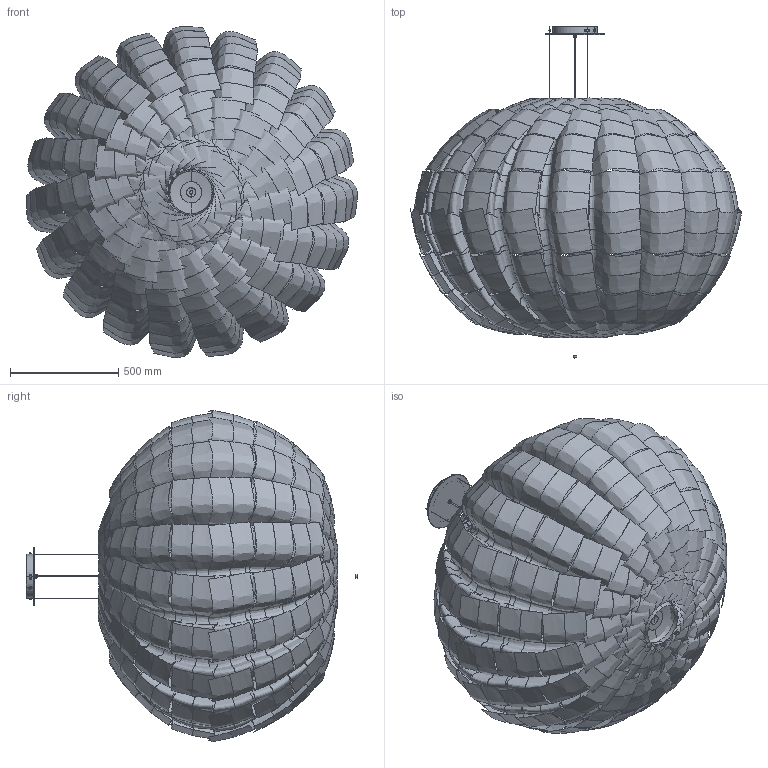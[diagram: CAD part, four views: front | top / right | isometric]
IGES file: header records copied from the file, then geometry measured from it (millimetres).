
Start section: SolidWorks IGES file using analytic representation for surfaces
Global section: file name: C:\SANTACOLE_PDM\Proyectos Catálogo\PROD-P13-041 -- LICEO\6_Técnico comercial\Liceo 120.IGS; native system: SolidWorks 2019; preprocessor: SolidWorks 2019; author: ana.pascual; date: 200406.170552; units: millimetre
Bounding box: 1531.33 x 1535.05 x 1531.63 mm (x, y, z)
Surface area: 16520067.6 mm2 (no closed solid volume)
Topology: 0 solids, 0 shells, 753 faces, 6962 edges, 6959 vertices
Faces by surface type: bspline 498, revolution 255
